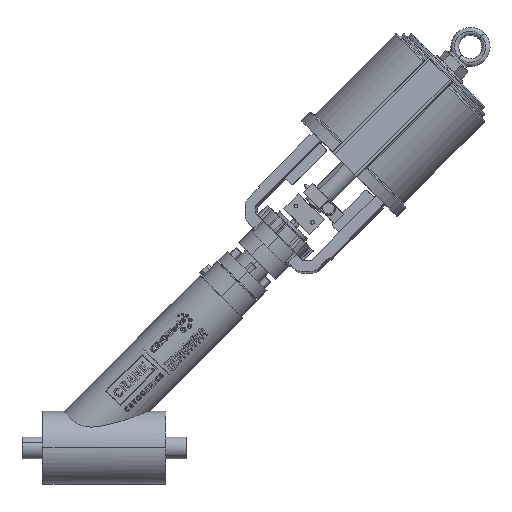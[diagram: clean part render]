
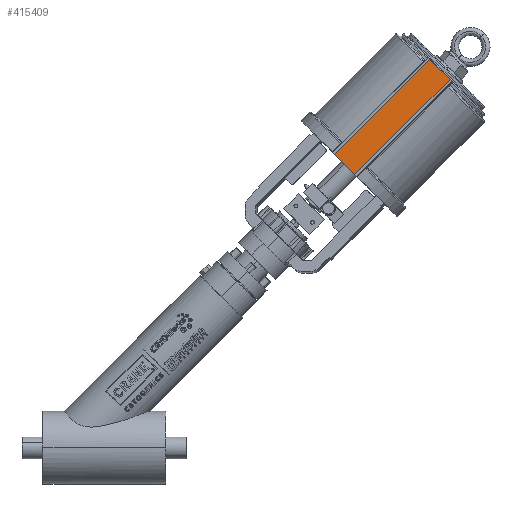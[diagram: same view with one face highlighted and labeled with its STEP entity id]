
A CAD part, top view. The second image highlights one B-rep face of the part: STEP entity #415409.
In plain terms, the highlighted planar face has unit normal (-0.067, 0.067, 0.996).
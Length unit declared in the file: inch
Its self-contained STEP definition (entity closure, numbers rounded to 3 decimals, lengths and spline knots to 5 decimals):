
#9256 = CARTESIAN_POINT ( 'NONE',  ( 12.6649, 14.05533, 3.11003 ) ) ;
#10098 = FACE_OUTER_BOUND ( 'NONE', #400227, .T. ) ;
#15048 = B_SPLINE_CURVE_WITH_KNOTS ( 'NONE', 3,
 ( #223432, #378382, #36376, #267653 ),
 .UNSPECIFIED., .F., .F.,
 ( 4, 4 ),
 ( 0., 1. ),
 .UNSPECIFIED. ) ;
#36376 = CARTESIAN_POINT ( 'NONE',  ( 16.66515, 16.12677, 3.23945 ) ) ;
#105227 = ORIENTED_EDGE ( 'NONE', *, *, #406674, .T. ) ;
#154802 = EDGE_CURVE ( 'NONE', #386075, #380115, #435739, .T. ) ;
#155349 = PLANE ( 'NONE',  #360856 ) ;
#159380 = CARTESIAN_POINT ( 'NONE',  ( 14.18282, 15.57325, 3.11003 ) ) ;
#163095 = CARTESIAN_POINT ( 'NONE',  ( 13.6293, 13.09093, 3.23945 ) ) ;
#168763 = ORIENTED_EDGE ( 'NONE', *, *, #305468, .T. ) ;
#193317 = ORIENTED_EDGE ( 'NONE', *, *, #154802, .F. ) ;
#203662 = CARTESIAN_POINT ( 'NONE',  ( 18.18307, 17.64469, 3.23945 ) ) ;
#218140 = ORIENTED_EDGE ( 'NONE', *, *, #242621, .T. ) ;
#221238 = CARTESIAN_POINT ( 'NONE',  ( 18.18307, 17.64469, 3.23945 ) ) ;
#223432 = CARTESIAN_POINT ( 'NONE',  ( 13.6293, 13.09093, 3.23945 ) ) ;
#225276 = CARTESIAN_POINT ( 'NONE',  ( 13.30784, 13.41239, 3.19631 ) ) ;
#227618 = VERTEX_POINT ( 'NONE', #371898 ) ;
#242621 = EDGE_CURVE ( 'NONE', #249684, #227618, #434923, .T. ) ;
#249684 = VERTEX_POINT ( 'NONE', #203662 ) ;
#267653 = CARTESIAN_POINT ( 'NONE',  ( 18.18307, 17.64469, 3.23945 ) ) ;
#275025 = CARTESIAN_POINT ( 'NONE',  ( 15.70074, 17.09118, 3.11003 ) ) ;
#299159 = CARTESIAN_POINT ( 'NONE',  ( 12.98637, 13.73386, 3.15317 ) ) ;
#305468 = EDGE_CURVE ( 'NONE', #386075, #249684, #15048, .T. ) ;
#323417 = CARTESIAN_POINT ( 'NONE',  ( 12.6649, 14.05533, 3.11003 ) ) ;
#360856 = AXIS2_PLACEMENT_3D ( 'NONE', #462877, #455609, #386612 ) ;
#371342 = CARTESIAN_POINT ( 'NONE',  ( 17.54013, 18.28763, 3.15317 ) ) ;
#371898 = CARTESIAN_POINT ( 'NONE',  ( 17.21867, 18.6091, 3.11003 ) ) ;
#372968 = CARTESIAN_POINT ( 'NONE',  ( 12.6649, 14.05533, 3.11003 ) ) ;
#377302 = B_SPLINE_CURVE_WITH_KNOTS ( 'NONE', 3,
 ( #383335, #275025, #159380, #9256 ),
 .UNSPECIFIED., .F., .F.,
 ( 4, 4 ),
 ( 0., 1. ),
 .UNSPECIFIED. ) ;
#378382 = CARTESIAN_POINT ( 'NONE',  ( 15.14723, 14.60885, 3.23945 ) ) ;
#380115 = VERTEX_POINT ( 'NONE', #323417 ) ;
#383335 = CARTESIAN_POINT ( 'NONE',  ( 17.21867, 18.6091, 3.11003 ) ) ;
#386075 = VERTEX_POINT ( 'NONE', #163095 ) ;
#386612 = DIRECTION ( 'NONE',  ( 0.707, 0.707, 0. ) ) ;
#400227 = EDGE_LOOP ( 'NONE', ( #168763, #218140, #105227, #193317 ) ) ;
#406674 = EDGE_CURVE ( 'NONE', #227618, #380115, #377302, .T. ) ;
#412337 = CARTESIAN_POINT ( 'NONE',  ( 13.6293, 13.09093, 3.23945 ) ) ;
#413138 = CARTESIAN_POINT ( 'NONE',  ( 17.8616, 17.96616, 3.19631 ) ) ;
#415409 = ADVANCED_FACE ( 'NONE', ( #10098 ), #155349, .T. ) ;
#434923 = B_SPLINE_CURVE_WITH_KNOTS ( 'NONE', 3,
 ( #221238, #413138, #371342, #445215 ),
 .UNSPECIFIED., .F., .F.,
 ( 4, 4 ),
 ( 0., 1. ),
 .UNSPECIFIED. ) ;
#435739 = B_SPLINE_CURVE_WITH_KNOTS ( 'NONE', 3,
 ( #412337, #225276, #299159, #372968 ),
 .UNSPECIFIED., .F., .F.,
 ( 4, 4 ),
 ( 0., 1. ),
 .UNSPECIFIED. ) ;
#445215 = CARTESIAN_POINT ( 'NONE',  ( 17.21867, 18.6091, 3.11003 ) ) ;
#455609 = DIRECTION ( 'NONE',  ( -0.067, 0.067, 0.996 ) ) ;
#462877 = CARTESIAN_POINT ( 'NONE',  ( 15.42398, 15.85001, 3.17474 ) ) ;
